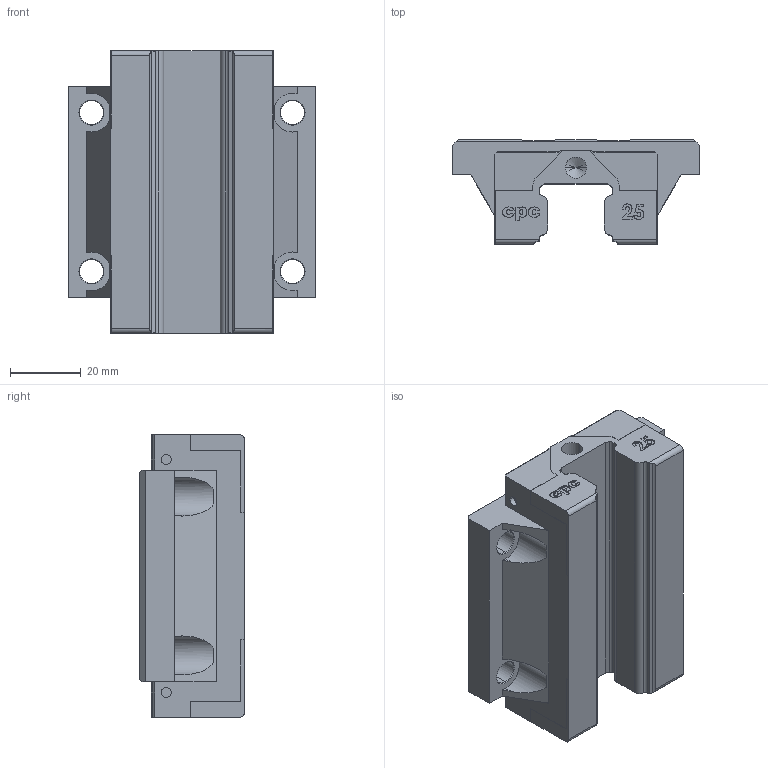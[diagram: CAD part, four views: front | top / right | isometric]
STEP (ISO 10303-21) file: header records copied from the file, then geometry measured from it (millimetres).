
FILE_DESCRIPTION (( 'STEP AP203' ), '1' );
FILE_NAME ('HR25FN.STEP', '2009-08-04T05:25:51', ( 'cpc' ), ( '' ), 'SwSTEP 2.0', 'SolidWorks 2007', '' );
FILE_SCHEMA (( 'CONFIG_CONTROL_DESIGN' ));
Length unit declared in the file: millimetre
Products named in the file (1): HR25FN
Bounding box: 70 x 29.6 x 80.2 mm (x, y, z)
Volume: 96750.3 mm3; surface area: 20938.7 mm2
Topology: 1 solids, 1 shells, 324 faces, 886 edges, 582 vertices
Faces by surface type: plane 154, bspline 86, cylinder 64, cone 20
Entity records: 14619 total; most frequent: CARTESIAN_POINT 6903, ORIENTED_EDGE 1764, DIRECTION 1280, EDGE_CURVE 882, VERTEX_POINT 582, VECTOR 554, LINE 554, AXIS2_PLACEMENT_3D 363
